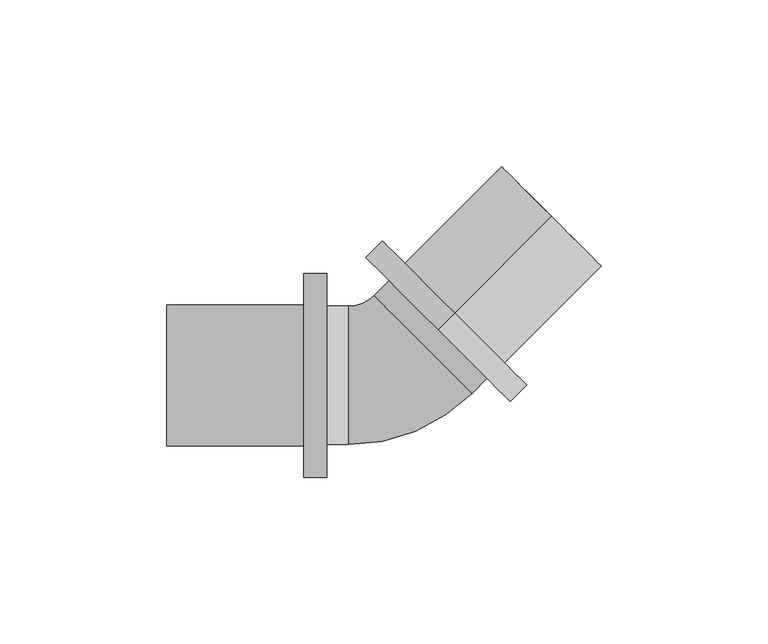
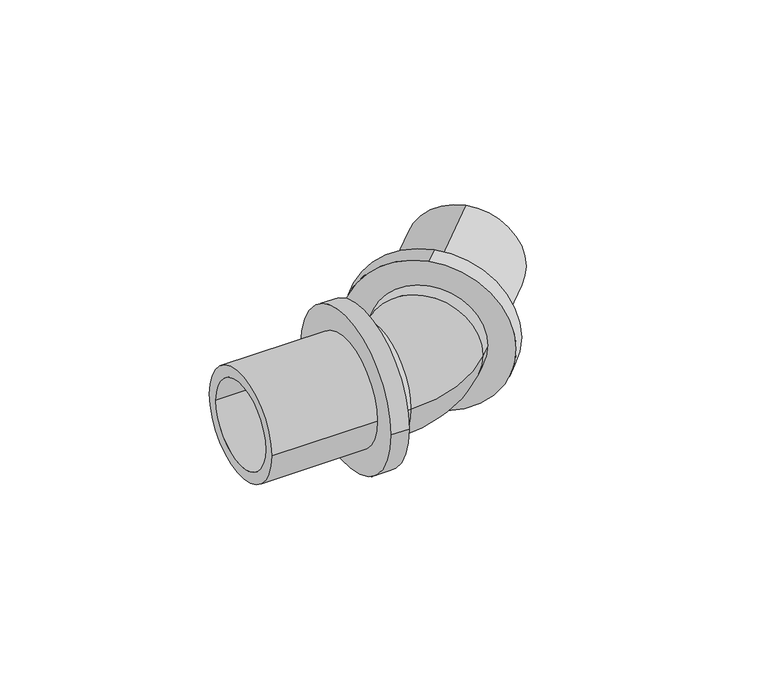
"""IFC4 building model written with IfcOpenShell, lengths in millimetres: pipe fitting geometry, RAUTITAN_Corner_RX+ stabil : RTI RX+ stabil C DN."""

from ifc_helpers import new_model, si_unit, point, frame, origin, place, context, project, spatial, polyline, circle_curve, ellipse_curve, trimmed, source, transform, mapped, element, save
from ifc_brep_helpers import plane_surface, cylinder_surface, revolved_surface, advanced_brep


def pipe_fitting_f353c31d(model_context):
    return source(origin(), model_context, "Body", "AdvancedBrep", [
        advanced_brep(
        [(18.7383297, 18.7383297, 30.55), (18.7383297, 18.7383297, -30.55), (13.7885822, 13.7885822, -30.55), (13.7885822, 13.7885822, 30.55), (47.7297077, 47.7297077, 21.15), (47.7297077, 47.7297077, -21.15), (18.7383297, 18.7383297, -21.15), (18.7383297, 18.7383297, 21.15), (13.7885822, 13.7885822, 16.75), (13.7885822, 13.7885822, -16.75), (47.7297077, 47.7297077, -16.75), (47.7297077, 47.7297077, 16.75)],
        [
            (0, 1, circle_curve(frame((18.7383297, 18.7383297, 0.0), z_axis=(-0.7071067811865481, -0.707106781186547, 0.0), x_axis=(0.0, 0.0, -1.0)), 30.55)),
            (1, 2),
            (2, 3, circle_curve(frame((13.7885822, 13.7885822, 0.0), z_axis=(0.7071067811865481, 0.707106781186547, 0.0), x_axis=(0.0, 0.0, -1.0)), 30.55)),
            (3, 0),
            (4, 5, circle_curve(frame((47.7297077, 47.7297077, 0.0), z_axis=(-0.7071067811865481, -0.707106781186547, 0.0), x_axis=(0.0, 0.0, -1.0)), 21.15)),
            (5, 6),
            (6, 7, circle_curve(frame((18.7383297, 18.7383297, 0.0), z_axis=(0.7071067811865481, 0.707106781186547, 0.0), x_axis=(0.0, 0.0, -1.0)), 21.15)),
            (7, 4),
            (8, 9, circle_curve(frame((13.7885822, 13.7885822, 0.0), z_axis=(-0.7071067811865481, -0.707106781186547, 0.0), x_axis=(0.0, 0.0, -1.0)), 16.75)),
            (9, 10),
            (10, 11, circle_curve(frame((47.7297077, 47.7297077, 0.0), z_axis=(0.7071067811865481, 0.707106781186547, 0.0), x_axis=(0.0, 0.0, -1.0)), 16.75)),
            (11, 8),
            (1, 0, circle_curve(frame((18.7383297, 18.7383297, 0.0), z_axis=(-0.7071067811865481, -0.707106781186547, 0.0), x_axis=(0.0, 0.0, 1.0)), 30.55)),
            (3, 2, circle_curve(frame((13.7885822, 13.7885822, 0.0), z_axis=(0.7071067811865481, 0.707106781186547, 0.0), x_axis=(0.0, 0.0, 1.0)), 30.55)),
            (6, 7, circle_curve(frame((18.7383297, 18.7383297, 0.0), z_axis=(-0.7071067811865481, -0.707106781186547, 0.0), x_axis=(0.0, 0.0, 1.0)), 21.15)),
            (5, 4, circle_curve(frame((47.7297077, 47.7297077, 0.0), z_axis=(-0.7071067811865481, -0.707106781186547, 0.0), x_axis=(0.0, 0.0, 1.0)), 21.15)),
            (10, 11, circle_curve(frame((47.7297077, 47.7297077, 0.0), z_axis=(-0.7071067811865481, -0.707106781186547, 0.0), x_axis=(0.0, 0.0, 1.0)), 16.75)),
            (9, 8, circle_curve(frame((13.7885822, 13.7885822, 0.0), z_axis=(-0.7071067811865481, -0.707106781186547, 0.0), x_axis=(0.0, 0.0, 1.0)), 16.75)),
        ],
        [
            cylinder_surface(frame((13.7885822, 13.7885822, 0.0), z_axis=(0.7071067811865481, 0.707106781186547, 0.0), x_axis=(0.0, 0.0, -1.0)), 30.55),
            cylinder_surface(frame((13.7885822, 13.7885822, 0.0), z_axis=(0.7071067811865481, 0.707106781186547, 0.0), x_axis=(0.0, 0.0, -1.0)), 21.15),
            revolved_surface(polyline([(47.72970770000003, 47.72970769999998, -16.75), (13.7885822, 13.7885822, -16.75)]), (13.7885822, 13.7885822, 0.0), (0.7071067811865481, 0.707106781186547, 0.0)),
            cylinder_surface(frame((13.7885822, 13.7885822, 0.0), z_axis=(0.7071067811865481, 0.707106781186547, 0.0), x_axis=(0.0, 0.0, 1.0)), 30.55),
            plane_surface(frame((18.7383297, 18.7383297, 0.0), z_axis=(0.7071067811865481, 0.707106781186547, 0.0), x_axis=(0.0, 0.0, 1.0))),
            cylinder_surface(frame((13.7885822, 13.7885822, 0.0), z_axis=(0.7071067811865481, 0.707106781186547, 0.0), x_axis=(0.0, 0.0, 1.0)), 21.15),
            plane_surface(frame((47.7297077, 47.7297077, 0.0), z_axis=(0.7071067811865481, 0.707106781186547, 0.0), x_axis=(0.0, 0.0, 1.0))),
            revolved_surface(polyline([(47.72970770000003, 47.72970769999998, 16.75), (13.7885822, 13.7885822, 16.75)]), (13.7885822, 13.7885822, 0.0), (0.7071067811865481, 0.707106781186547, 0.0)),
            plane_surface(frame((13.7885822, 13.7885822, 0.0), z_axis=(-0.7071067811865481, -0.707106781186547, 0.0), x_axis=(0.0, 0.0, 1.0))),
        ],
        [
            (0, [[1, 2, 3, 4]]),
            (1, [[5, 6, 7, 8]]),
            (2, [[9, 10, 11, 12]]),
            (3, [[13, -4, 14, -2]]),
            (4, [[-13, -1], [15, -7]]),
            (5, [[16, -8, -15, -6]]),
            (6, [[-16, -5], [17, -11]]),
            (7, [[18, -12, -17, -10]]),
            (8, [[-14, -3], [-18, -9]]),
        ],
    ),
        advanced_brep(
        [(-26.5, -30.55, 0.0), (-26.5, 30.55, 0.0), (-19.5, 30.55, 0.0), (-19.5, -30.55, 0.0), (-67.5, -21.15, 0.0), (-67.5, 21.15, 0.0), (-26.5, 21.15, 0.0), (-26.5, -21.15, 0.0), (-19.5, -16.75, 0.0), (-19.5, 16.75, 0.0), (-67.5, 16.75, 0.0), (-67.5, -16.75, 0.0)],
        [
            (0, 1, circle_curve(frame((-26.5, 0.0, 0.0), z_axis=(1.0, 0.0, 0.0), x_axis=(0.0, 1.0, 0.0)), 30.55)),
            (1, 2),
            (2, 3, circle_curve(frame((-19.5, 0.0, 0.0), z_axis=(-1.0, 0.0, 0.0), x_axis=(0.0, 1.0, 0.0)), 30.55)),
            (3, 0),
            (4, 5, circle_curve(frame((-67.5, 0.0, 0.0), z_axis=(1.0, 0.0, 0.0), x_axis=(0.0, 1.0, 0.0)), 21.15)),
            (5, 6),
            (6, 7, circle_curve(frame((-26.5, 0.0, 0.0), z_axis=(-1.0, 0.0, 0.0), x_axis=(0.0, 1.0, 0.0)), 21.15)),
            (7, 4),
            (8, 9, circle_curve(frame((-19.5, 0.0, 0.0), z_axis=(1.0, 0.0, 0.0), x_axis=(0.0, 1.0, 0.0)), 16.75)),
            (9, 10),
            (10, 11, circle_curve(frame((-67.5, 0.0, 0.0), z_axis=(-1.0, 0.0, 0.0), x_axis=(0.0, 1.0, 0.0)), 16.75)),
            (11, 8),
            (1, 0, circle_curve(frame((-26.5, 0.0, 0.0), z_axis=(1.0, 0.0, 0.0), x_axis=(0.0, -1.0, 0.0)), 30.55)),
            (3, 2, circle_curve(frame((-19.5, 0.0, 0.0), z_axis=(-1.0, 0.0, 0.0), x_axis=(0.0, -1.0, 0.0)), 30.55)),
            (6, 7, circle_curve(frame((-26.5, 0.0, 0.0), z_axis=(1.0, 0.0, 0.0), x_axis=(0.0, -1.0, 0.0)), 21.15)),
            (5, 4, circle_curve(frame((-67.5, 0.0, 0.0), z_axis=(1.0, 0.0, 0.0), x_axis=(0.0, -1.0, 0.0)), 21.15)),
            (10, 11, circle_curve(frame((-67.5, 0.0, 0.0), z_axis=(1.0, 0.0, 0.0), x_axis=(0.0, -1.0, 0.0)), 16.75)),
            (9, 8, circle_curve(frame((-19.5, 0.0, 0.0), z_axis=(1.0, 0.0, 0.0), x_axis=(0.0, -1.0, 0.0)), 16.75)),
        ],
        [
            cylinder_surface(frame((-19.5, 0.0, 0.0), z_axis=(-1.0, 0.0, 0.0), x_axis=(0.0, 1.0, 0.0)), 30.55),
            cylinder_surface(frame((-19.5, 0.0, 0.0), z_axis=(-1.0, 0.0, 0.0), x_axis=(0.0, 1.0, 0.0)), 21.15),
            revolved_surface(polyline([(-67.5, 16.75, 0.0), (-19.5, 16.75, 0.0)]), (-19.5, 0.0, 0.0), (-1.0, 0.0, 0.0)),
            cylinder_surface(frame((-19.5, 0.0, 0.0), z_axis=(-1.0, 0.0, 0.0), x_axis=(0.0, -1.0, 0.0)), 30.55),
            plane_surface(frame((-26.5, 0.0, 0.0), z_axis=(-1.0, 0.0, 0.0), x_axis=(0.0, -1.0, 0.0))),
            cylinder_surface(frame((-19.5, 0.0, 0.0), z_axis=(-1.0, 0.0, 0.0), x_axis=(0.0, -1.0, 0.0)), 21.15),
            plane_surface(frame((-67.5, 0.0, 0.0), z_axis=(-1.0, 0.0, 0.0), x_axis=(0.0, -1.0, 0.0))),
            revolved_surface(polyline([(-67.5, -16.75, 0.0), (-19.5, -16.75, 0.0)]), (-19.5, 0.0, 0.0), (-1.0, 0.0, 0.0)),
            plane_surface(frame((-19.5, 0.0, 0.0), z_axis=(1.0, 0.0, 0.0), x_axis=(0.0, -1.0, 0.0))),
        ],
        [
            (0, [[1, 2, 3, 4]]),
            (1, [[5, 6, 7, 8]]),
            (2, [[9, 10, 11, 12]]),
            (3, [[13, -4, 14, -2]]),
            (4, [[-13, -1], [15, -7]]),
            (5, [[16, -8, -15, -6]]),
            (6, [[-16, -5], [17, -11]]),
            (7, [[18, -12, -17, -10]]),
            (8, [[-14, -3], [-18, -9]]),
        ],
    ),
        advanced_brep(
        [(-19.5, 20.75, 0.0), (-19.5, -20.75, 0.0), (-19.5, 16.75, 0.0), (-19.5, -16.75, 0.0), (-13.1512806, -16.75, 0.0), (-13.1512806, 16.75, 0.0), (-13.1512806, -20.75, 0.0), (-13.1512806, 20.75, 0.0), (28.4610479, -0.8838835, 0.0), (-0.8838835, 28.4610479, 0.0), (25.6326208, 1.9445436, 0.0), (1.9445436, 25.6326208, 0.0), (-2.5446789, 21.1433983, 0.0), (21.1433983, -2.5446789, 0.0), (-5.373106, 23.9718254, 0.0), (23.9718254, -5.373106, 0.0)],
        [
            (0, 1, circle_curve(frame((-19.5, 0.0, 0.0), z_axis=(-1.0, 0.0, 0.0), x_axis=(0.0, -1.0, 0.0)), 20.75)),
            (1, 0, circle_curve(frame((-19.5, 0.0, 0.0), z_axis=(-1.0, 0.0, 0.0), x_axis=(0.0, -1.0, 0.0)), 20.75)),
            (2, 3, circle_curve(frame((-19.5, 0.0, 0.0), z_axis=(1.0, 0.0, 0.0), x_axis=(0.0, -1.0, 0.0)), 16.75)),
            (3, 2, circle_curve(frame((-19.5, 0.0, 0.0), z_axis=(1.0, 0.0, 0.0), x_axis=(0.0, -1.0, 0.0)), 16.75)),
            (3, 4),
            (4, 5, circle_curve(frame((-13.1512806, 0.0, 0.0), z_axis=(1.0, 0.0, 0.0), x_axis=(0.0, -1.0, 0.0)), 16.75)),
            (5, 2),
            (5, 4, circle_curve(frame((-13.1512806, 0.0, 0.0), z_axis=(1.0, 0.0, 0.0), x_axis=(0.0, -1.0, 0.0)), 16.75)),
            (1, 6),
            (6, 7, circle_curve(frame((-13.1512806, 0.0, 0.0), z_axis=(-1.0, 0.0, 0.0), x_axis=(0.0, -1.0, 0.0)), 20.75)),
            (7, 0),
            (7, 6, circle_curve(frame((-13.1512806, 0.0, 0.0), z_axis=(-1.0, 0.0, 0.0), x_axis=(0.0, -1.0, 0.0)), 20.75)),
            (8, 9, circle_curve(frame((13.7885822, 13.7885822, 0.0), z_axis=(0.7071067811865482, 0.7071067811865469, 0.0), x_axis=(-0.7071067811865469, 0.7071067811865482, 0.0)), 20.75)),
            (9, 8, circle_curve(frame((13.7885822, 13.7885822, 0.0), z_axis=(0.7071067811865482, 0.7071067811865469, 0.0), x_axis=(-0.7071067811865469, 0.7071067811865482, 0.0)), 20.75)),
            (10, 11, circle_curve(frame((13.7885822, 13.7885822, 0.0), z_axis=(-0.7071067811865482, -0.7071067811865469, 0.0), x_axis=(-0.7071067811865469, 0.7071067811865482, 0.0)), 16.75)),
            (11, 10, circle_curve(frame((13.7885822, 13.7885822, 0.0), z_axis=(-0.7071067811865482, -0.7071067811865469, 0.0), x_axis=(-0.7071067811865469, 0.7071067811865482, 0.0)), 16.75)),
            (11, 12),
            (12, 13, circle_curve(frame((9.2993597, 9.2993597, 0.0), z_axis=(-0.7071067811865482, -0.7071067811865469, 0.0), x_axis=(-0.7071067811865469, 0.7071067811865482, 0.0)), 16.75)),
            (13, 10),
            (13, 12, circle_curve(frame((9.2993597, 9.2993597, 0.0), z_axis=(-0.7071067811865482, -0.7071067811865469, 0.0), x_axis=(-0.7071067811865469, 0.7071067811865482, 0.0)), 16.75)),
            (9, 14),
            (14, 15, circle_curve(frame((9.2993597, 9.2993597, 0.0), z_axis=(0.7071067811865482, 0.7071067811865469, 0.0), x_axis=(-0.7071067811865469, 0.7071067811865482, 0.0)), 20.75)),
            (15, 8),
            (15, 14, circle_curve(frame((9.2993597, 9.2993597, 0.0), z_axis=(0.7071067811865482, 0.7071067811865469, 0.0), x_axis=(-0.7071067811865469, 0.7071067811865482, 0.0)), 20.75)),
            (12, 5, circle_curve(frame((-13.1512806, 31.75, 0.0), z_axis=(0.0, 0.0, -1.0), x_axis=(0.0, -1.0, 0.0)), 15.0)),
            (4, 13, circle_curve(frame((-13.1512806, 31.75, 0.0), z_axis=(0.0, 0.0, 1.0), x_axis=(0.0, -1.0, 0.0)), 48.5)),
            (14, 7, circle_curve(frame((-13.1512806, 31.75, 0.0), z_axis=(0.0, 0.0, -1.0), x_axis=(0.0, -1.0, 0.0)), 11.0)),
            (6, 15, circle_curve(frame((-13.1512806, 31.75, 0.0), z_axis=(0.0, 0.0, 1.0), x_axis=(0.0, -1.0, 0.0)), 52.5)),
        ],
        [
            plane_surface(frame((-19.5, 0.0, 0.0), z_axis=(-1.0, 0.0, 0.0), x_axis=(0.0, 0.0, 1.0))),
            revolved_surface(polyline([(-19.5, -16.75, 0.0), (-13.1512806, -16.75, 0.0)]), (-13.1512806, 0.0, 0.0), (-1.0, 0.0, 0.0)),
            cylinder_surface(frame((-13.1512806, 0.0, 0.0), z_axis=(1.0, 0.0, 0.0), x_axis=(0.0, -1.0, 0.0)), 20.75),
            plane_surface(frame((13.7885822, 13.7885822, 0.0), z_axis=(0.7071067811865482, 0.7071067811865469, 0.0), x_axis=(0.0, 0.0, 1.0))),
            revolved_surface(polyline([(1.9445436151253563, 25.632620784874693, 0.0), (-2.544678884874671, 21.143398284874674, 0.0)]), (9.2993597, 9.2993597, 0.0), (0.7071067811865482, 0.7071067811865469, 0.0)),
            cylinder_surface(frame((9.2993597, 9.2993597, 0.0), z_axis=(-0.7071067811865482, -0.7071067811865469, 0.0), x_axis=(-0.7071067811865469, 0.7071067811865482, 0.0)), 20.75),
            revolved_surface(trimmed(ellipse_curve(frame((-13.1512806, 0.0, 0.0), z_axis=(1.0, 0.0, 0.0), x_axis=(0.0, 1.0, 0.0)), 16.75, 16.75), [point((-13.1512806, -16.75, 0.0))], [point((-13.1512806, 16.75, 0.0))], True, "CARTESIAN"), (-13.1512806, 31.75, 0.0), (0.0, 0.0, 1.0)),
            revolved_surface(trimmed(ellipse_curve(frame((-13.1512806, 0.0, 0.0), z_axis=(1.0, 0.0, 0.0), x_axis=(0.0, 1.0, 0.0)), 16.75, 16.75), [point((-13.1512806, 16.75, 0.0))], [point((-13.1512806, -16.75, 0.0))], True, "CARTESIAN"), (-13.1512806, 31.75, 0.0), (0.0, 0.0, 1.0)),
            revolved_surface(trimmed(ellipse_curve(frame((-13.1512806, 0.0, 0.0), z_axis=(-1.0, 0.0, 0.0), x_axis=(0.0, 1.0, 0.0)), 20.75, 20.75), [point((-13.1512806, -20.75, 0.0))], [point((-13.1512806, 20.75, 0.0))], True, "CARTESIAN"), (-13.1512806, 31.75, 0.0), (0.0, 0.0, 1.0)),
            revolved_surface(trimmed(ellipse_curve(frame((-13.1512806, 0.0, 0.0), z_axis=(-1.0, 0.0, 0.0), x_axis=(0.0, 1.0, 0.0)), 20.75, 20.75), [point((-13.1512806, 20.75, 0.0))], [point((-13.1512806, -20.75, 0.0))], True, "CARTESIAN"), (-13.1512806, 31.75, 0.0), (0.0, 0.0, 1.0)),
        ],
        [
            (0, [[1, 2], [3, 4]]),
            (1, [[-4, 5, 6, 7]]),
            (1, [[-3, -7, 8, -5]]),
            (2, [[-2, 9, 10, 11]]),
            (2, [[-1, -11, 12, -9]]),
            (3, [[13, 14], [15, 16]]),
            (4, [[-16, 17, 18, 19]]),
            (4, [[-15, -19, 20, -17]]),
            (5, [[-14, 21, 22, 23]]),
            (5, [[-13, -23, 24, -21]]),
            (6, [[25, -6, 26, -18]]),
            (7, [[-25, -20, -26, -8]]),
            (8, [[27, -10, 28, -22]]),
            (9, [[-27, -24, -28, -12]]),
        ],
    ),
    ])


if __name__ == "__main__":
    model = new_model("IFC4")
    model_context = context("Model", 3, world=origin())
    ifc_project = project(units=[si_unit("LENGTHUNIT", "METRE", prefix="MILLI")], contexts=[model_context])
    site = spatial("IfcSite", under=ifc_project)
    building = spatial("IfcBuilding", under=site)
    placement = place(None, origin())
    pipe_fitting_shape = pipe_fitting_f353c31d(model_context)
    element("IfcPipeFitting", 1, ObjectType="RAUTITAN_Corner_RX+ stabil : RTI RX+ stabil C DN", at=placement, inside=building, context=model_context, shape_type="MappedRepresentation", body=[
        mapped(pipe_fitting_shape, transform((0.0, 0.0, 0.0), x_axis=(1.0, 0.0, 0.0), y_axis=(0.0, 1.0, 0.0), z_axis=(0.0, 0.0, 1.0))),
    ])
    save(model, "model.ifc")
